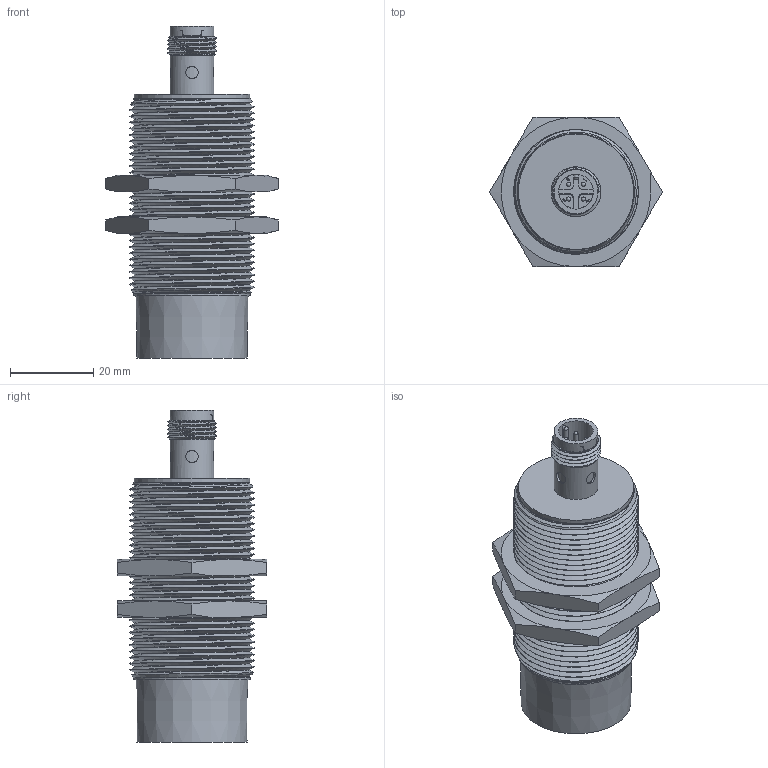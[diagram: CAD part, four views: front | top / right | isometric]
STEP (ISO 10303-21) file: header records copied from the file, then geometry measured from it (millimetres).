
FILE_DESCRIPTION(/* description */ (''),/* implementation_level */ '2;1');
FILE_NAME(/* name */ '3DCAD_IS_D30MM_2NC_30N_M12.stp',/* time_stamp */ '2025-04-30T10:37:54+02:00',/* author */ ('CC2'),/* organization */ ('Leuze electronic'),/* preprocessor_version */ 'ST-DEVELOPER v19.4',/* originating_system */ 'SIEMENS PLM Software NX2306.9180',/* authorisation */ '');
FILE_SCHEMA (('AUTOMOTIVE_DESIGN { 1 0 10303 214 3 1 1 1 }'));
Length unit declared in the file: millimetre
Products named in the file (2): 012169_00.0_1-SKT-Mutter M30 SW36; 19-103875_00_1-3DCAD_IS_D30MM_2NC_30N_M12
Assembly tree (2 placements, depth 2):
  19-103875_00_1-3DCAD_IS_D30MM_2NC_30N_M12
    012169_00.0_1-SKT-Mutter M30 SW36  x2
Bounding box: 41.57 x 36 x 80 mm (x, y, z)
Volume: 46339.5 mm3; surface area: 17419 mm2
Topology: 4 solids, 7 shells, 270 faces, 780 edges, 526 vertices
Faces by surface type: plane 123, cylinder 67, bspline 30, extrusion 26, torus 11, cone 8, sphere 5
Full cylindrical faces by diameter (mm): 1 x5, 1.029 x1, 3 x4, 8.4 x1, 9.5 x3, 9.6 x3, 10.6 x2, 27 x1, 27.8 x1, 28 x1, 28.376 x2
Entity records: 18272 total; most frequent: CARTESIAN_POINT 12379, ORIENTED_EDGE 1296, DIRECTION 1021, EDGE_CURVE 648, VERTEX_POINT 452, AXIS2_PLACEMENT_3D 343, VECTOR 335, LINE 309
